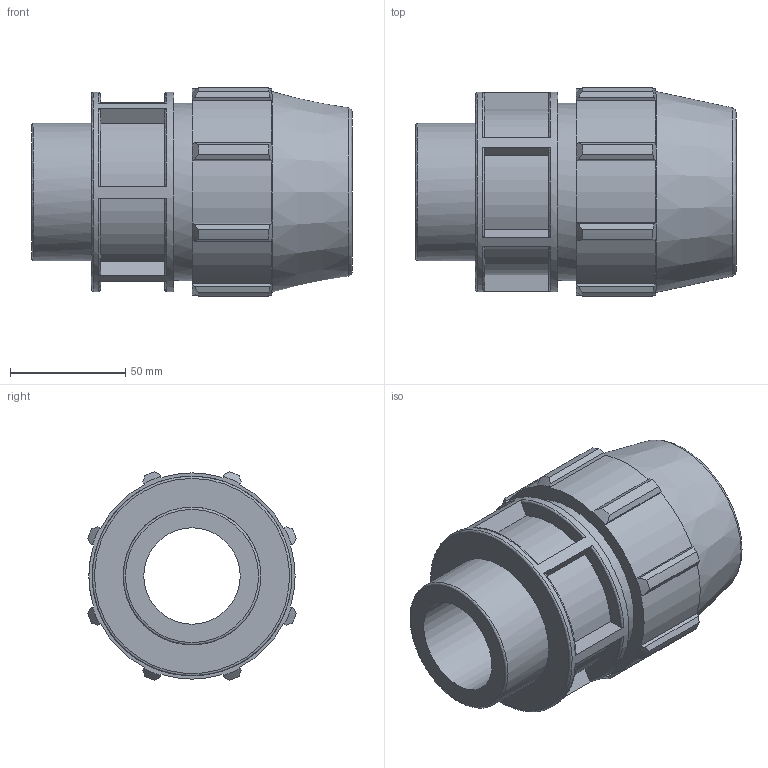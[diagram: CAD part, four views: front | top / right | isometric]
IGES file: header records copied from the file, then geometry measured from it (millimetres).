
Global section: file name: 0702M0T15020.ipt; native system: Autodesk Inventor 2019; preprocessor: unknown; author: KIM; date: 20210826.124446; units: inch
Bounding box: 138.94 x 90.34 x 90.34 mm (x, y, z)
Volume: 425002 mm3; surface area: 71990.7 mm2
Topology: 1 solids, 1 shells, 117 faces, 322 edges, 217 vertices
Faces by surface type: plane 63, cylinder 25, revolution 19, cone 10
Full cylindrical faces by diameter (mm): 59.614 x1, 76.81 x1, 86.411 x1
